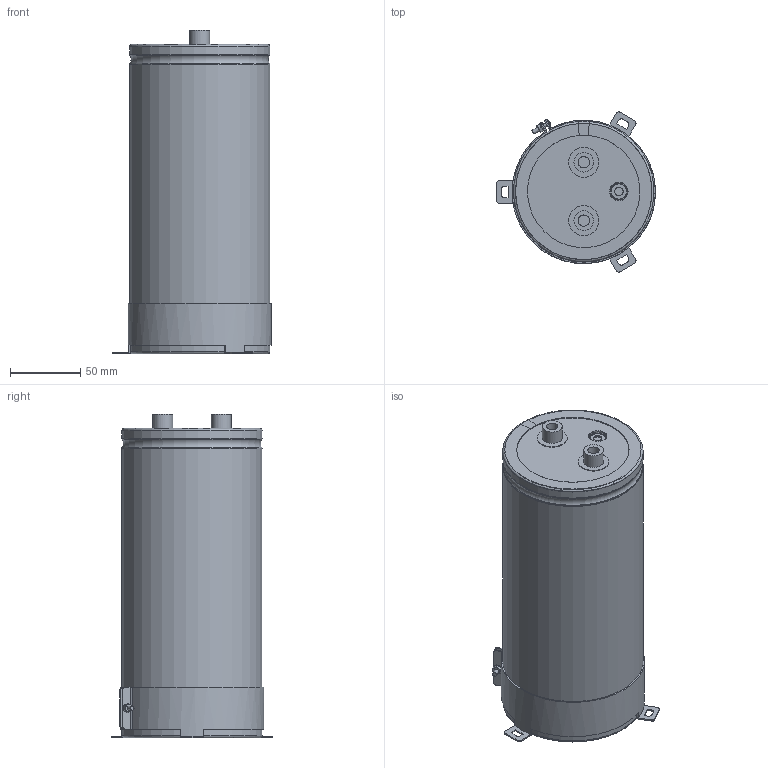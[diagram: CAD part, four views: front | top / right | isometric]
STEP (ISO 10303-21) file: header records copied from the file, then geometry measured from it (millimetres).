
FILE_DESCRIPTION(/* description */ (''),/* implementation_level */ '2;1');
FILE_NAME(/* name */ '100x220_Screw.stp',/* time_stamp */ '2017-09-17T15:30:48+09:00',/* author */ (''),/* organization */ (''),/* preprocessor_version */ 'ST-DEVELOPER v16',/* originating_system */ 'SIEMENS PLM Software NX 11.0',/* authorisation */ '');
FILE_SCHEMA (('AUTOMOTIVE_DESIGN { 1 0 10303 214 3 1 1 1 }'));
Length unit declared in the file: millimetre
Products named in the file (1): 100x220_Screw
Bounding box: 112.99 x 113.92 x 230 mm (x, y, z)
Volume: 1732477.6 mm3; surface area: 256380.5 mm2
Topology: 9 solids, 9 shells, 257 faces, 639 edges, 411 vertices
Faces by surface type: plane 111, cylinder 65, torus 49, cone 31, sphere 1
Full cylindrical faces by diameter (mm): 3 x5, 5.5 x2, 6 x4, 8 x2, 13 x2, 14 x2, 21.5 x2, 98.8 x2
Entity records: 8394 total; most frequent: CARTESIAN_POINT 2076, DIRECTION 1288, ORIENTED_EDGE 1210, EDGE_CURVE 605, AXIS2_PLACEMENT_3D 537, VERTEX_POINT 406, EDGE_LOOP 313, CIRCLE 279
